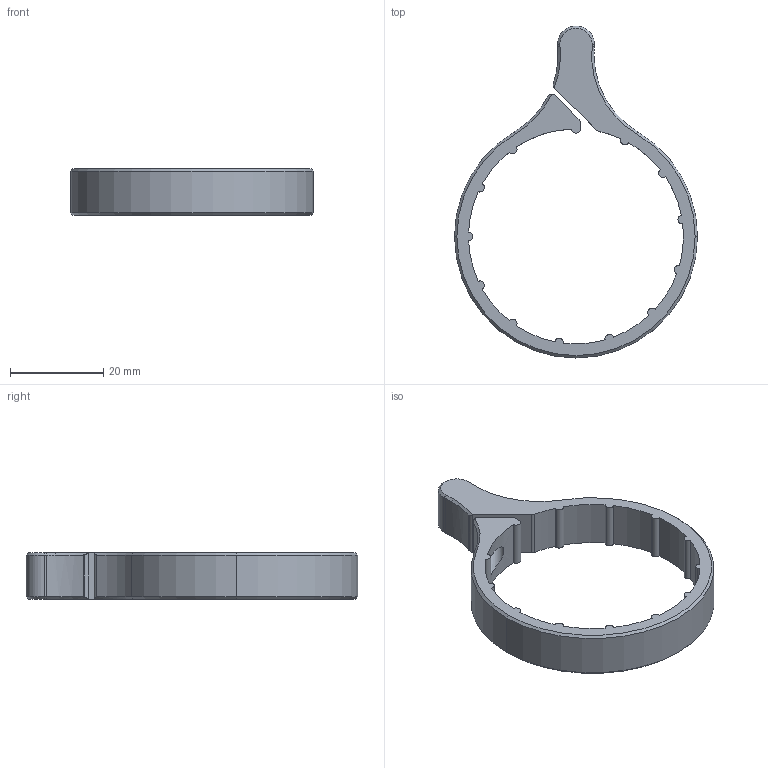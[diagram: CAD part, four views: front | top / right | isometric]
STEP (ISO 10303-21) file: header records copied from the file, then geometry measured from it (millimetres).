
FILE_DESCRIPTION (( 'STEP AP214' ), '1' );
FILE_NAME ('Vortex Diamondback 4-16x44.STEP', '2020-01-11T15:08:36', ( '' ), ( '' ), 'SwSTEP 2.0', 'SolidWorks 2017', '' );
FILE_SCHEMA (( 'AUTOMOTIVE_DESIGN' ));
Length unit declared in the file: inch
Products named in the file (1): Vortex Diamondback 4-16x44
Bounding box: 52.04 x 71.09 x 10 mm (x, y, z)
Volume: 6180.1 mm3; surface area: 5100.8 mm2
Topology: 1 solids, 1 shells, 83 faces, 220 edges, 141 vertices
Faces by surface type: cylinder 55, cone 20, plane 8
Entity records: 2791 total; most frequent: CARTESIAN_POINT 583, DIRECTION 505, ORIENTED_EDGE 440, EDGE_CURVE 220, AXIS2_PLACEMENT_3D 211, VERTEX_POINT 141, CIRCLE 127, EDGE_LOOP 89
